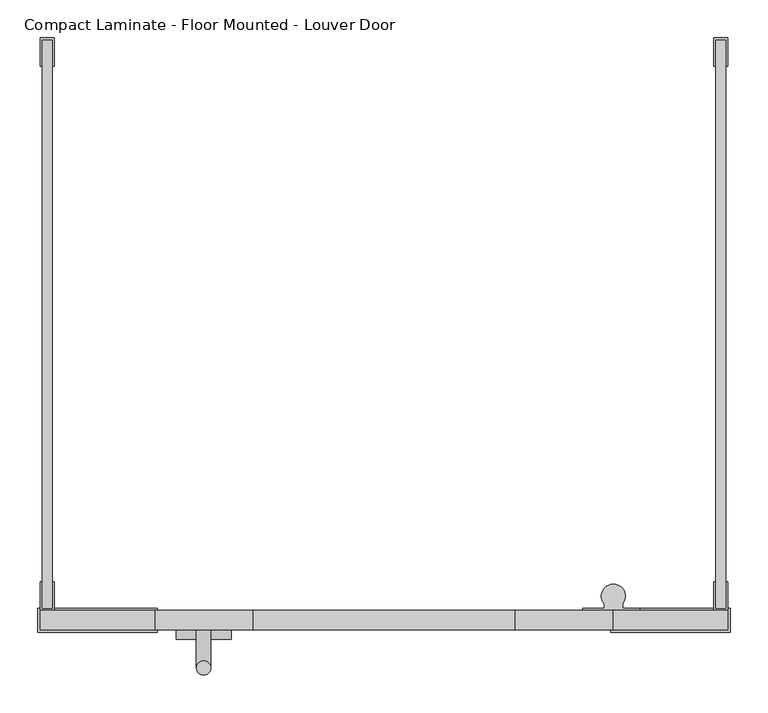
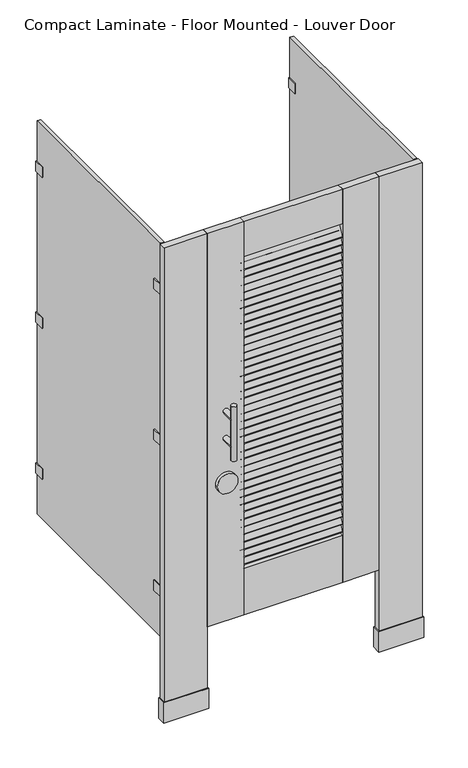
"""IFC4 building model written with IfcOpenShell, lengths in millimetres: proxy geometry, Toilet-Partition_Ironwood-Mfg_Compact-Laminate : Compact Laminate - Floor Mounted - Louver Door."""

from ifc_helpers import new_model, si_unit, point, frame, frame_2d, origin, origin_with_axes, place, context, project, spatial, polyline, circle_curve, ellipse_curve, trimmed, segment, composite_curve, outline, extrude, source, transform, mapped, element, save
from ifc_brep_helpers import plane_surface, cylinder_surface, advanced_brep


def compact_laminate_floor_mounted_louver_door_74d75947(model_context):
    return source(origin(), model_context, "Body", "SolidModel", [
        extrude(outline(polyline([(701.675, -758.825), (701.675, -790.575), (542.925, -790.575), (542.925, -758.825), (701.675, -758.825)])), origin_with_axes(), (0.0, 0.0, 1.0), 76.2),
        extrude(outline(polyline([(698.5, -762.0), (698.5, -787.4), (546.1, -787.4), (546.1, -762.0), (698.5, -762.0)])), origin_with_axes(), (0.0, 0.0, 1.0), 1778.0),
        extrude(outline(polyline([(-219.075, -758.825), (-60.325, -758.825), (-60.325, -790.575), (-219.075, -790.575), (-219.075, -758.825)])), origin_with_axes(), (0.0, 0.0, 1.0), 76.2),
        extrude(outline(polyline([(-215.9, -762.0), (-63.5, -762.0), (-63.5, -787.4), (-215.9, -787.4), (-215.9, -762.0)])), origin_with_axes(), (0.0, 0.0, 1.0), 1778.0),
        extrude(outline(composite_curve([segment(polyline([(-762.7746396, 1604.8741298), (-780.7614889, 1567.9956236)]), True, "CONTINUOUS"), segment(trimmed(circle_curve(frame_2d((-783.61516, 1569.387452)), 3.175), [point((-780.7614889, 1567.9956236))], [point((-786.4688311, 1570.7792804))], False, "CARTESIAN"), True, "CONTINUOUS"), segment(polyline([(-786.4688311, 1570.7792804), (-768.4819818, 1607.6577866)]), True, "CONTINUOUS"), segment(trimmed(circle_curve(frame_2d((-765.6283107, 1606.2659582)), 3.175), [point((-768.4819818, 1607.6577866))], [point((-762.7746396, 1604.8741298))], False, "CARTESIAN"), True, "CONTINUOUS")], self_intersect=False)), frame((66.675, 0.0, 0.0), z_axis=(1.0, 0.0, 0.0), x_axis=(0.0, 1.0, 0.0)), (0.0, 0.0, 1.0), 349.25),
        extrude(outline(composite_curve([segment(polyline([(-762.7746396, 1576.5578755), (-780.7614889, 1539.6793692)]), True, "CONTINUOUS"), segment(trimmed(circle_curve(frame_2d((-783.61516, 1541.0711976)), 3.175), [point((-780.7614889, 1539.6793692))], [point((-786.4688311, 1542.463026))], False, "CARTESIAN"), True, "CONTINUOUS"), segment(polyline([(-786.4688311, 1542.463026), (-768.4819818, 1579.3415322)]), True, "CONTINUOUS"), segment(trimmed(circle_curve(frame_2d((-765.6283107, 1577.9497038)), 3.175), [point((-768.4819818, 1579.3415322))], [point((-762.7746396, 1576.5578755))], False, "CARTESIAN"), True, "CONTINUOUS")], self_intersect=False)), frame((66.675, 0.0, 0.0), z_axis=(1.0, 0.0, 0.0), x_axis=(0.0, 1.0, 0.0)), (0.0, 0.0, 1.0), 349.25),
        extrude(outline(composite_curve([segment(polyline([(-762.7746396, 1548.2416211), (-780.7614889, 1511.3631149)]), True, "CONTINUOUS"), segment(trimmed(circle_curve(frame_2d((-783.61516, 1512.7549433)), 3.175), [point((-780.7614889, 1511.3631149))], [point((-786.4688311, 1514.1467716))], False, "CARTESIAN"), True, "CONTINUOUS"), segment(polyline([(-786.4688311, 1514.1467716), (-768.4819818, 1551.0252779)]), True, "CONTINUOUS"), segment(trimmed(circle_curve(frame_2d((-765.6283107, 1549.6334495)), 3.175), [point((-768.4819818, 1551.0252779))], [point((-762.7746396, 1548.2416211))], False, "CARTESIAN"), True, "CONTINUOUS")], self_intersect=False)), frame((66.675, 0.0, 0.0), z_axis=(1.0, 0.0, 0.0), x_axis=(0.0, 1.0, 0.0)), (0.0, 0.0, 1.0), 349.25),
        extrude(outline(composite_curve([segment(polyline([(-762.7746396, 1519.9253667), (-780.7614889, 1483.0468605)]), True, "CONTINUOUS"), segment(trimmed(circle_curve(frame_2d((-783.61516, 1484.4386889)), 3.175), [point((-780.7614889, 1483.0468605))], [point((-786.4688311, 1485.8305173))], False, "CARTESIAN"), True, "CONTINUOUS"), segment(polyline([(-786.4688311, 1485.8305173), (-768.4819818, 1522.7090235)]), True, "CONTINUOUS"), segment(trimmed(circle_curve(frame_2d((-765.6283107, 1521.3171951)), 3.175), [point((-768.4819818, 1522.7090235))], [point((-762.7746396, 1519.9253667))], False, "CARTESIAN"), True, "CONTINUOUS")], self_intersect=False)), frame((66.675, 0.0, 0.0), z_axis=(1.0, 0.0, 0.0), x_axis=(0.0, 1.0, 0.0)), (0.0, 0.0, 1.0), 349.25),
        extrude(outline(composite_curve([segment(polyline([(-762.7746396, 1491.6091124), (-780.7614889, 1454.7306061)]), True, "CONTINUOUS"), segment(trimmed(circle_curve(frame_2d((-783.61516, 1456.1224345)), 3.175), [point((-780.7614889, 1454.7306061))], [point((-786.4688311, 1457.5142629))], False, "CARTESIAN"), True, "CONTINUOUS"), segment(polyline([(-786.4688311, 1457.5142629), (-768.4819818, 1494.3927691)]), True, "CONTINUOUS"), segment(trimmed(circle_curve(frame_2d((-765.6283107, 1493.0009408)), 3.175), [point((-768.4819818, 1494.3927691))], [point((-762.7746396, 1491.6091124))], False, "CARTESIAN"), True, "CONTINUOUS")], self_intersect=False)), frame((66.675, 0.0, 0.0), z_axis=(1.0, 0.0, 0.0), x_axis=(0.0, 1.0, 0.0)), (0.0, 0.0, 1.0), 349.25),
        extrude(outline(composite_curve([segment(polyline([(-762.7746396, 1463.292858), (-780.7614889, 1426.4143518)]), True, "CONTINUOUS"), segment(trimmed(circle_curve(frame_2d((-783.61516, 1427.8061802)), 3.175), [point((-780.7614889, 1426.4143518))], [point((-786.4688311, 1429.1980085))], False, "CARTESIAN"), True, "CONTINUOUS"), segment(polyline([(-786.4688311, 1429.1980085), (-768.4819818, 1466.0765148)]), True, "CONTINUOUS"), segment(trimmed(circle_curve(frame_2d((-765.6283107, 1464.6846864)), 3.175), [point((-768.4819818, 1466.0765148))], [point((-762.7746396, 1463.292858))], False, "CARTESIAN"), True, "CONTINUOUS")], self_intersect=False)), frame((66.675, 0.0, 0.0), z_axis=(1.0, 0.0, 0.0), x_axis=(0.0, 1.0, 0.0)), (0.0, 0.0, 1.0), 349.25),
        extrude(outline(composite_curve([segment(polyline([(-762.7746396, 1434.9766036), (-780.7614889, 1398.0980974)]), True, "CONTINUOUS"), segment(trimmed(circle_curve(frame_2d((-783.61516, 1399.4899258)), 3.175), [point((-780.7614889, 1398.0980974))], [point((-786.4688311, 1400.8817542))], False, "CARTESIAN"), True, "CONTINUOUS"), segment(polyline([(-786.4688311, 1400.8817542), (-768.4819818, 1437.7602604)]), True, "CONTINUOUS"), segment(trimmed(circle_curve(frame_2d((-765.6283107, 1436.368432)), 3.175), [point((-768.4819818, 1437.7602604))], [point((-762.7746396, 1434.9766036))], False, "CARTESIAN"), True, "CONTINUOUS")], self_intersect=False)), frame((66.675, 0.0, 0.0), z_axis=(1.0, 0.0, 0.0), x_axis=(0.0, 1.0, 0.0)), (0.0, 0.0, 1.0), 349.25),
        extrude(outline(composite_curve([segment(polyline([(-762.7746396, 1406.6603493), (-780.7614889, 1369.781843)]), True, "CONTINUOUS"), segment(trimmed(circle_curve(frame_2d((-783.61516, 1371.1736714)), 3.175), [point((-780.7614889, 1369.781843))], [point((-786.4688311, 1372.5654998))], False, "CARTESIAN"), True, "CONTINUOUS"), segment(polyline([(-786.4688311, 1372.5654998), (-768.4819818, 1409.444006)]), True, "CONTINUOUS"), segment(trimmed(circle_curve(frame_2d((-765.6283107, 1408.0521777)), 3.175), [point((-768.4819818, 1409.444006))], [point((-762.7746396, 1406.6603493))], False, "CARTESIAN"), True, "CONTINUOUS")], self_intersect=False)), frame((66.675, 0.0, 0.0), z_axis=(1.0, 0.0, 0.0), x_axis=(0.0, 1.0, 0.0)), (0.0, 0.0, 1.0), 349.25),
        extrude(outline(composite_curve([segment(polyline([(-762.7746396, 1378.3440949), (-780.7614889, 1341.4655887)]), True, "CONTINUOUS"), segment(trimmed(circle_curve(frame_2d((-783.61516, 1342.8574171)), 3.175), [point((-780.7614889, 1341.4655887))], [point((-786.4688311, 1344.2492455))], False, "CARTESIAN"), True, "CONTINUOUS"), segment(polyline([(-786.4688311, 1344.2492455), (-768.4819818, 1381.1277517)]), True, "CONTINUOUS"), segment(trimmed(circle_curve(frame_2d((-765.6283107, 1379.7359233)), 3.175), [point((-768.4819818, 1381.1277517))], [point((-762.7746396, 1378.3440949))], False, "CARTESIAN"), True, "CONTINUOUS")], self_intersect=False)), frame((66.675, 0.0, 0.0), z_axis=(1.0, 0.0, 0.0), x_axis=(0.0, 1.0, 0.0)), (0.0, 0.0, 1.0), 349.25),
        extrude(outline(composite_curve([segment(polyline([(-762.7746396, 1350.0278405), (-780.7614889, 1313.1493343)]), True, "CONTINUOUS"), segment(trimmed(circle_curve(frame_2d((-783.61516, 1314.5411627)), 3.175), [point((-780.7614889, 1313.1493343))], [point((-786.4688311, 1315.9329911))], False, "CARTESIAN"), True, "CONTINUOUS"), segment(polyline([(-786.4688311, 1315.9329911), (-768.4819818, 1352.8114973)]), True, "CONTINUOUS"), segment(trimmed(circle_curve(frame_2d((-765.6283107, 1351.4196689)), 3.175), [point((-768.4819818, 1352.8114973))], [point((-762.7746396, 1350.0278405))], False, "CARTESIAN"), True, "CONTINUOUS")], self_intersect=False)), frame((66.675, 0.0, 0.0), z_axis=(1.0, 0.0, 0.0), x_axis=(0.0, 1.0, 0.0)), (0.0, 0.0, 1.0), 349.25),
        extrude(outline(composite_curve([segment(polyline([(-762.7746396, 1321.7115862), (-780.7614889, 1284.8330799)]), True, "CONTINUOUS"), segment(trimmed(circle_curve(frame_2d((-783.61516, 1286.2249083)), 3.175), [point((-780.7614889, 1284.8330799))], [point((-786.4688311, 1287.6167367))], False, "CARTESIAN"), True, "CONTINUOUS"), segment(polyline([(-786.4688311, 1287.6167367), (-768.4819818, 1324.4952429)]), True, "CONTINUOUS"), segment(trimmed(circle_curve(frame_2d((-765.6283107, 1323.1034146)), 3.175), [point((-768.4819818, 1324.4952429))], [point((-762.7746396, 1321.7115862))], False, "CARTESIAN"), True, "CONTINUOUS")], self_intersect=False)), frame((66.675, 0.0, 0.0), z_axis=(1.0, 0.0, 0.0), x_axis=(0.0, 1.0, 0.0)), (0.0, 0.0, 1.0), 349.25),
        extrude(outline(composite_curve([segment(polyline([(-762.7746396, 1293.3953318), (-780.7614889, 1256.5168256)]), True, "CONTINUOUS"), segment(trimmed(circle_curve(frame_2d((-783.61516, 1257.908654)), 3.175), [point((-780.7614889, 1256.5168256))], [point((-786.4688311, 1259.3004824))], False, "CARTESIAN"), True, "CONTINUOUS"), segment(polyline([(-786.4688311, 1259.3004824), (-768.4819818, 1296.1789886)]), True, "CONTINUOUS"), segment(trimmed(circle_curve(frame_2d((-765.6283107, 1294.7871602)), 3.175), [point((-768.4819818, 1296.1789886))], [point((-762.7746396, 1293.3953318))], False, "CARTESIAN"), True, "CONTINUOUS")], self_intersect=False)), frame((66.675, 0.0, 0.0), z_axis=(1.0, 0.0, 0.0), x_axis=(0.0, 1.0, 0.0)), (0.0, 0.0, 1.0), 349.25),
        extrude(outline(composite_curve([segment(polyline([(-762.7746396, 1265.0790774), (-780.7614889, 1228.2005712)]), True, "CONTINUOUS"), segment(trimmed(circle_curve(frame_2d((-783.61516, 1229.5923996)), 3.175), [point((-780.7614889, 1228.2005712))], [point((-786.4688311, 1230.984228))], False, "CARTESIAN"), True, "CONTINUOUS"), segment(polyline([(-786.4688311, 1230.984228), (-768.4819818, 1267.8627342)]), True, "CONTINUOUS"), segment(trimmed(circle_curve(frame_2d((-765.6283107, 1266.4709058)), 3.175), [point((-768.4819818, 1267.8627342))], [point((-762.7746396, 1265.0790774))], False, "CARTESIAN"), True, "CONTINUOUS")], self_intersect=False)), frame((66.675, 0.0, 0.0), z_axis=(1.0, 0.0, 0.0), x_axis=(0.0, 1.0, 0.0)), (0.0, 0.0, 1.0), 349.25),
        extrude(outline(composite_curve([segment(polyline([(-762.7746396, 1236.7628231), (-780.7614889, 1199.8843168)]), True, "CONTINUOUS"), segment(trimmed(circle_curve(frame_2d((-783.61516, 1201.2761452)), 3.175), [point((-780.7614889, 1199.8843168))], [point((-786.4688311, 1202.6679736))], False, "CARTESIAN"), True, "CONTINUOUS"), segment(polyline([(-786.4688311, 1202.6679736), (-768.4819818, 1239.5464799)]), True, "CONTINUOUS"), segment(trimmed(circle_curve(frame_2d((-765.6283107, 1238.1546515)), 3.175), [point((-768.4819818, 1239.5464799))], [point((-762.7746396, 1236.7628231))], False, "CARTESIAN"), True, "CONTINUOUS")], self_intersect=False)), frame((66.675, 0.0, 0.0), z_axis=(1.0, 0.0, 0.0), x_axis=(0.0, 1.0, 0.0)), (0.0, 0.0, 1.0), 349.25),
        extrude(outline(composite_curve([segment(polyline([(-762.7746396, 1208.4465687), (-780.7614889, 1171.5680625)]), True, "CONTINUOUS"), segment(trimmed(circle_curve(frame_2d((-783.61516, 1172.9598909)), 3.175), [point((-780.7614889, 1171.5680625))], [point((-786.4688311, 1174.3517193))], False, "CARTESIAN"), True, "CONTINUOUS"), segment(polyline([(-786.4688311, 1174.3517193), (-768.4819818, 1211.2302255)]), True, "CONTINUOUS"), segment(trimmed(circle_curve(frame_2d((-765.6283107, 1209.8383971)), 3.175), [point((-768.4819818, 1211.2302255))], [point((-762.7746396, 1208.4465687))], False, "CARTESIAN"), True, "CONTINUOUS")], self_intersect=False)), frame((66.675, 0.0, 0.0), z_axis=(1.0, 0.0, 0.0), x_axis=(0.0, 1.0, 0.0)), (0.0, 0.0, 1.0), 349.25),
        extrude(outline(composite_curve([segment(polyline([(-762.7746396, 1180.1303143), (-780.7614889, 1143.2518081)]), True, "CONTINUOUS"), segment(trimmed(circle_curve(frame_2d((-783.61516, 1144.6436365)), 3.175), [point((-780.7614889, 1143.2518081))], [point((-786.4688311, 1146.0354649))], False, "CARTESIAN"), True, "CONTINUOUS"), segment(polyline([(-786.4688311, 1146.0354649), (-768.4819818, 1182.9139711)]), True, "CONTINUOUS"), segment(trimmed(circle_curve(frame_2d((-765.6283107, 1181.5221427)), 3.175), [point((-768.4819818, 1182.9139711))], [point((-762.7746396, 1180.1303143))], False, "CARTESIAN"), True, "CONTINUOUS")], self_intersect=False)), frame((66.675, 0.0, 0.0), z_axis=(1.0, 0.0, 0.0), x_axis=(0.0, 1.0, 0.0)), (0.0, 0.0, 1.0), 349.25),
        extrude(outline(composite_curve([segment(polyline([(-762.7746396, 1151.81406), (-780.7614889, 1114.9355537)]), True, "CONTINUOUS"), segment(trimmed(circle_curve(frame_2d((-783.61516, 1116.3273821)), 3.175), [point((-780.7614889, 1114.9355537))], [point((-786.4688311, 1117.7192105))], False, "CARTESIAN"), True, "CONTINUOUS"), segment(polyline([(-786.4688311, 1117.7192105), (-768.4819818, 1154.5977168)]), True, "CONTINUOUS"), segment(trimmed(circle_curve(frame_2d((-765.6283107, 1153.2058884)), 3.175), [point((-768.4819818, 1154.5977168))], [point((-762.7746396, 1151.81406))], False, "CARTESIAN"), True, "CONTINUOUS")], self_intersect=False)), frame((66.675, 0.0, 0.0), z_axis=(1.0, 0.0, 0.0), x_axis=(0.0, 1.0, 0.0)), (0.0, 0.0, 1.0), 349.25),
        extrude(outline(composite_curve([segment(polyline([(-762.7746396, 1123.4978056), (-780.7614889, 1086.6192994)]), True, "CONTINUOUS"), segment(trimmed(circle_curve(frame_2d((-783.61516, 1088.0111278)), 3.175), [point((-780.7614889, 1086.6192994))], [point((-786.4688311, 1089.4029562))], False, "CARTESIAN"), True, "CONTINUOUS"), segment(polyline([(-786.4688311, 1089.4029562), (-768.4819818, 1126.2814624)]), True, "CONTINUOUS"), segment(trimmed(circle_curve(frame_2d((-765.6283107, 1124.889634)), 3.175), [point((-768.4819818, 1126.2814624))], [point((-762.7746396, 1123.4978056))], False, "CARTESIAN"), True, "CONTINUOUS")], self_intersect=False)), frame((66.675, 0.0, 0.0), z_axis=(1.0, 0.0, 0.0), x_axis=(0.0, 1.0, 0.0)), (0.0, 0.0, 1.0), 349.25),
        extrude(outline(composite_curve([segment(polyline([(-762.7746396, 1095.1815512), (-780.7614889, 1058.303045)]), True, "CONTINUOUS"), segment(trimmed(circle_curve(frame_2d((-783.61516, 1059.6948734)), 3.175), [point((-780.7614889, 1058.303045))], [point((-786.4688311, 1061.0867018))], False, "CARTESIAN"), True, "CONTINUOUS"), segment(polyline([(-786.4688311, 1061.0867018), (-768.4819818, 1097.965208)]), True, "CONTINUOUS"), segment(trimmed(circle_curve(frame_2d((-765.6283107, 1096.5733796)), 3.175), [point((-768.4819818, 1097.965208))], [point((-762.7746396, 1095.1815512))], False, "CARTESIAN"), True, "CONTINUOUS")], self_intersect=False)), frame((66.675, 0.0, 0.0), z_axis=(1.0, 0.0, 0.0), x_axis=(0.0, 1.0, 0.0)), (0.0, 0.0, 1.0), 349.25),
        extrude(outline(composite_curve([segment(polyline([(-762.7746396, 1066.8652969), (-780.7614889, 1029.9867907)]), True, "CONTINUOUS"), segment(trimmed(circle_curve(frame_2d((-783.61516, 1031.378619)), 3.175), [point((-780.7614889, 1029.9867907))], [point((-786.4688311, 1032.7704474))], False, "CARTESIAN"), True, "CONTINUOUS"), segment(polyline([(-786.4688311, 1032.7704474), (-768.4819818, 1069.6489537)]), True, "CONTINUOUS"), segment(trimmed(circle_curve(frame_2d((-765.6283107, 1068.2571253)), 3.175), [point((-768.4819818, 1069.6489537))], [point((-762.7746396, 1066.8652969))], False, "CARTESIAN"), True, "CONTINUOUS")], self_intersect=False)), frame((66.675, 0.0, 0.0), z_axis=(1.0, 0.0, 0.0), x_axis=(0.0, 1.0, 0.0)), (0.0, 0.0, 1.0), 349.25),
        extrude(outline(composite_curve([segment(polyline([(-762.7746396, 1038.5490425), (-780.7614889, 1001.6705363)]), True, "CONTINUOUS"), segment(trimmed(circle_curve(frame_2d((-783.61516, 1003.0623647)), 3.175), [point((-780.7614889, 1001.6705363))], [point((-786.4688311, 1004.4541931))], False, "CARTESIAN"), True, "CONTINUOUS"), segment(polyline([(-786.4688311, 1004.4541931), (-768.4819818, 1041.3326993)]), True, "CONTINUOUS"), segment(trimmed(circle_curve(frame_2d((-765.6283107, 1039.9408709)), 3.175), [point((-768.4819818, 1041.3326993))], [point((-762.7746396, 1038.5490425))], False, "CARTESIAN"), True, "CONTINUOUS")], self_intersect=False)), frame((66.675, 0.0, 0.0), z_axis=(1.0, 0.0, 0.0), x_axis=(0.0, 1.0, 0.0)), (0.0, 0.0, 1.0), 349.25),
        extrude(outline(composite_curve([segment(polyline([(-762.7746396, 1010.2327881), (-780.7614889, 973.3542819)]), True, "CONTINUOUS"), segment(trimmed(circle_curve(frame_2d((-783.61516, 974.7461103)), 3.175), [point((-780.7614889, 973.3542819))], [point((-786.4688311, 976.1379387))], False, "CARTESIAN"), True, "CONTINUOUS"), segment(polyline([(-786.4688311, 976.1379387), (-768.4819818, 1013.0164449)]), True, "CONTINUOUS"), segment(trimmed(circle_curve(frame_2d((-765.6283107, 1011.6246165)), 3.175), [point((-768.4819818, 1013.0164449))], [point((-762.7746396, 1010.2327881))], False, "CARTESIAN"), True, "CONTINUOUS")], self_intersect=False)), frame((66.675, 0.0, 0.0), z_axis=(1.0, 0.0, 0.0), x_axis=(0.0, 1.0, 0.0)), (0.0, 0.0, 1.0), 349.25),
        extrude(outline(composite_curve([segment(polyline([(-762.7746396, 981.9165338), (-780.7614889, 945.0380276)]), True, "CONTINUOUS"), segment(trimmed(circle_curve(frame_2d((-783.61516, 946.4298559)), 3.175), [point((-780.7614889, 945.0380276))], [point((-786.4688311, 947.8216843))], False, "CARTESIAN"), True, "CONTINUOUS"), segment(polyline([(-786.4688311, 947.8216843), (-768.4819818, 984.7001906)]), True, "CONTINUOUS"), segment(trimmed(circle_curve(frame_2d((-765.6283107, 983.3083622)), 3.175), [point((-768.4819818, 984.7001906))], [point((-762.7746396, 981.9165338))], False, "CARTESIAN"), True, "CONTINUOUS")], self_intersect=False)), frame((66.675, 0.0, 0.0), z_axis=(1.0, 0.0, 0.0), x_axis=(0.0, 1.0, 0.0)), (0.0, 0.0, 1.0), 349.25),
        extrude(outline(composite_curve([segment(polyline([(-762.7746396, 953.6002794), (-780.7614889, 916.7217732)]), True, "CONTINUOUS"), segment(trimmed(circle_curve(frame_2d((-783.61516, 918.1136016)), 3.175), [point((-780.7614889, 916.7217732))], [point((-786.4688311, 919.50543))], False, "CARTESIAN"), True, "CONTINUOUS"), segment(polyline([(-786.4688311, 919.50543), (-768.4819818, 956.3839362)]), True, "CONTINUOUS"), segment(trimmed(circle_curve(frame_2d((-765.6283107, 954.9921078)), 3.175), [point((-768.4819818, 956.3839362))], [point((-762.7746396, 953.6002794))], False, "CARTESIAN"), True, "CONTINUOUS")], self_intersect=False)), frame((66.675, 0.0, 0.0), z_axis=(1.0, 0.0, 0.0), x_axis=(0.0, 1.0, 0.0)), (0.0, 0.0, 1.0), 349.25),
        extrude(outline(composite_curve([segment(polyline([(-762.7746396, 925.284025), (-780.7614889, 888.4055188)]), True, "CONTINUOUS"), segment(trimmed(circle_curve(frame_2d((-783.61516, 889.7973472)), 3.175), [point((-780.7614889, 888.4055188))], [point((-786.4688311, 891.1891756))], False, "CARTESIAN"), True, "CONTINUOUS"), segment(polyline([(-786.4688311, 891.1891756), (-768.4819818, 928.0676818)]), True, "CONTINUOUS"), segment(trimmed(circle_curve(frame_2d((-765.6283107, 926.6758534)), 3.175), [point((-768.4819818, 928.0676818))], [point((-762.7746396, 925.284025))], False, "CARTESIAN"), True, "CONTINUOUS")], self_intersect=False)), frame((66.675, 0.0, 0.0), z_axis=(1.0, 0.0, 0.0), x_axis=(0.0, 1.0, 0.0)), (0.0, 0.0, 1.0), 349.25),
        extrude(outline(composite_curve([segment(polyline([(-762.7746396, 896.9677707), (-780.7614889, 860.0892645)]), True, "CONTINUOUS"), segment(trimmed(circle_curve(frame_2d((-783.61516, 861.4810928)), 3.175), [point((-780.7614889, 860.0892645))], [point((-786.4688311, 862.8729212))], False, "CARTESIAN"), True, "CONTINUOUS"), segment(polyline([(-786.4688311, 862.8729212), (-768.4819818, 899.7514275)]), True, "CONTINUOUS"), segment(trimmed(circle_curve(frame_2d((-765.6283107, 898.3595991)), 3.175), [point((-768.4819818, 899.7514275))], [point((-762.7746396, 896.9677707))], False, "CARTESIAN"), True, "CONTINUOUS")], self_intersect=False)), frame((66.675, 0.0, 0.0), z_axis=(1.0, 0.0, 0.0), x_axis=(0.0, 1.0, 0.0)), (0.0, 0.0, 1.0), 349.25),
        extrude(outline(composite_curve([segment(polyline([(-762.7746396, 868.6515163), (-780.7614889, 831.7730101)]), True, "CONTINUOUS"), segment(trimmed(circle_curve(frame_2d((-783.61516, 833.1648385)), 3.175), [point((-780.7614889, 831.7730101))], [point((-786.4688311, 834.5566669))], False, "CARTESIAN"), True, "CONTINUOUS"), segment(polyline([(-786.4688311, 834.5566669), (-768.4819818, 871.4351731)]), True, "CONTINUOUS"), segment(trimmed(circle_curve(frame_2d((-765.6283107, 870.0433447)), 3.175), [point((-768.4819818, 871.4351731))], [point((-762.7746396, 868.6515163))], False, "CARTESIAN"), True, "CONTINUOUS")], self_intersect=False)), frame((66.675, 0.0, 0.0), z_axis=(1.0, 0.0, 0.0), x_axis=(0.0, 1.0, 0.0)), (0.0, 0.0, 1.0), 349.25),
        extrude(outline(composite_curve([segment(polyline([(-762.7746396, 840.335262), (-780.7614889, 803.4567557)]), True, "CONTINUOUS"), segment(trimmed(circle_curve(frame_2d((-783.61516, 804.8485841)), 3.175), [point((-780.7614889, 803.4567557))], [point((-786.4688311, 806.2404125))], False, "CARTESIAN"), True, "CONTINUOUS"), segment(polyline([(-786.4688311, 806.2404125), (-768.4819818, 843.1189187)]), True, "CONTINUOUS"), segment(trimmed(circle_curve(frame_2d((-765.6283107, 841.7270903)), 3.175), [point((-768.4819818, 843.1189187))], [point((-762.7746396, 840.335262))], False, "CARTESIAN"), True, "CONTINUOUS")], self_intersect=False)), frame((66.675, 0.0, 0.0), z_axis=(1.0, 0.0, 0.0), x_axis=(0.0, 1.0, 0.0)), (0.0, 0.0, 1.0), 349.25),
        extrude(outline(composite_curve([segment(polyline([(-762.7746396, 812.0190076), (-780.7614889, 775.1405014)]), True, "CONTINUOUS"), segment(trimmed(circle_curve(frame_2d((-783.61516, 776.5323298)), 3.175), [point((-780.7614889, 775.1405014))], [point((-786.4688311, 777.9241581))], False, "CARTESIAN"), True, "CONTINUOUS"), segment(polyline([(-786.4688311, 777.9241581), (-768.4819818, 814.8026644)]), True, "CONTINUOUS"), segment(trimmed(circle_curve(frame_2d((-765.6283107, 813.410836)), 3.175), [point((-768.4819818, 814.8026644))], [point((-762.7746396, 812.0190076))], False, "CARTESIAN"), True, "CONTINUOUS")], self_intersect=False)), frame((66.675, 0.0, 0.0), z_axis=(1.0, 0.0, 0.0), x_axis=(0.0, 1.0, 0.0)), (0.0, 0.0, 1.0), 349.25),
        extrude(outline(composite_curve([segment(polyline([(-762.7746396, 783.7027532), (-780.7614889, 746.824247)]), True, "CONTINUOUS"), segment(trimmed(circle_curve(frame_2d((-783.61516, 748.2160754)), 3.175), [point((-780.7614889, 746.824247))], [point((-786.4688311, 749.6079038))], False, "CARTESIAN"), True, "CONTINUOUS"), segment(polyline([(-786.4688311, 749.6079038), (-768.4819818, 786.48641)]), True, "CONTINUOUS"), segment(trimmed(circle_curve(frame_2d((-765.6283107, 785.0945816)), 3.175), [point((-768.4819818, 786.48641))], [point((-762.7746396, 783.7027532))], False, "CARTESIAN"), True, "CONTINUOUS")], self_intersect=False)), frame((66.675, 0.0, 0.0), z_axis=(1.0, 0.0, 0.0), x_axis=(0.0, 1.0, 0.0)), (0.0, 0.0, 1.0), 349.25),
        extrude(outline(composite_curve([segment(polyline([(-762.7746396, 755.3864989), (-780.7614889, 718.5079926)]), True, "CONTINUOUS"), segment(trimmed(circle_curve(frame_2d((-783.61516, 719.899821)), 3.175), [point((-780.7614889, 718.5079926))], [point((-786.4688311, 721.2916494))], False, "CARTESIAN"), True, "CONTINUOUS"), segment(polyline([(-786.4688311, 721.2916494), (-768.4819818, 758.1701556)]), True, "CONTINUOUS"), segment(trimmed(circle_curve(frame_2d((-765.6283107, 756.7783272)), 3.175), [point((-768.4819818, 758.1701556))], [point((-762.7746396, 755.3864989))], False, "CARTESIAN"), True, "CONTINUOUS")], self_intersect=False)), frame((66.675, 0.0, 0.0), z_axis=(1.0, 0.0, 0.0), x_axis=(0.0, 1.0, 0.0)), (0.0, 0.0, 1.0), 349.25),
        extrude(outline(composite_curve([segment(polyline([(-762.7746396, 727.0702445), (-780.7614889, 690.1917383)]), True, "CONTINUOUS"), segment(trimmed(circle_curve(frame_2d((-783.61516, 691.5835667)), 3.175), [point((-780.7614889, 690.1917383))], [point((-786.4688311, 692.975395))], False, "CARTESIAN"), True, "CONTINUOUS"), segment(polyline([(-786.4688311, 692.975395), (-768.4819818, 729.8539013)]), True, "CONTINUOUS"), segment(trimmed(circle_curve(frame_2d((-765.6283107, 728.4620729)), 3.175), [point((-768.4819818, 729.8539013))], [point((-762.7746396, 727.0702445))], False, "CARTESIAN"), True, "CONTINUOUS")], self_intersect=False)), frame((66.675, 0.0, 0.0), z_axis=(1.0, 0.0, 0.0), x_axis=(0.0, 1.0, 0.0)), (0.0, 0.0, 1.0), 349.25),
        extrude(outline(composite_curve([segment(polyline([(-762.7746396, 698.7539901), (-780.7614889, 661.8754839)]), True, "CONTINUOUS"), segment(trimmed(circle_curve(frame_2d((-783.61516, 663.2673123)), 3.175), [point((-780.7614889, 661.8754839))], [point((-786.4688311, 664.6591407))], False, "CARTESIAN"), True, "CONTINUOUS"), segment(polyline([(-786.4688311, 664.6591407), (-768.4819818, 701.5376469)]), True, "CONTINUOUS"), segment(trimmed(circle_curve(frame_2d((-765.6283107, 700.1458185)), 3.175), [point((-768.4819818, 701.5376469))], [point((-762.7746396, 698.7539901))], False, "CARTESIAN"), True, "CONTINUOUS")], self_intersect=False)), frame((66.675, 0.0, 0.0), z_axis=(1.0, 0.0, 0.0), x_axis=(0.0, 1.0, 0.0)), (0.0, 0.0, 1.0), 349.25),
        extrude(outline(composite_curve([segment(polyline([(-762.7746396, 670.4377358), (-780.7614889, 633.5592295)]), True, "CONTINUOUS"), segment(trimmed(circle_curve(frame_2d((-783.61516, 634.9510579)), 3.175), [point((-780.7614889, 633.5592295))], [point((-786.4688311, 636.3428863))], False, "CARTESIAN"), True, "CONTINUOUS"), segment(polyline([(-786.4688311, 636.3428863), (-768.4819818, 673.2213925)]), True, "CONTINUOUS"), segment(trimmed(circle_curve(frame_2d((-765.6283107, 671.8295642)), 3.175), [point((-768.4819818, 673.2213925))], [point((-762.7746396, 670.4377358))], False, "CARTESIAN"), True, "CONTINUOUS")], self_intersect=False)), frame((66.675, 0.0, 0.0), z_axis=(1.0, 0.0, 0.0), x_axis=(0.0, 1.0, 0.0)), (0.0, 0.0, 1.0), 349.25),
        extrude(outline(composite_curve([segment(polyline([(-762.7746396, 642.1214814), (-780.7614889, 605.2429752)]), True, "CONTINUOUS"), segment(trimmed(circle_curve(frame_2d((-783.61516, 606.6348036)), 3.175), [point((-780.7614889, 605.2429752))], [point((-786.4688311, 608.026632))], False, "CARTESIAN"), True, "CONTINUOUS"), segment(polyline([(-786.4688311, 608.026632), (-768.4819818, 644.9051382)]), True, "CONTINUOUS"), segment(trimmed(circle_curve(frame_2d((-765.6283107, 643.5133098)), 3.175), [point((-768.4819818, 644.9051382))], [point((-762.7746396, 642.1214814))], False, "CARTESIAN"), True, "CONTINUOUS")], self_intersect=False)), frame((66.675, 0.0, 0.0), z_axis=(1.0, 0.0, 0.0), x_axis=(0.0, 1.0, 0.0)), (0.0, 0.0, 1.0), 349.25),
        extrude(outline(composite_curve([segment(polyline([(-762.7746396, 613.805227), (-780.7614889, 576.9267208)]), True, "CONTINUOUS"), segment(trimmed(circle_curve(frame_2d((-783.61516, 578.3185492)), 3.175), [point((-780.7614889, 576.9267208))], [point((-786.4688311, 579.7103776))], False, "CARTESIAN"), True, "CONTINUOUS"), segment(polyline([(-786.4688311, 579.7103776), (-768.4819818, 616.5888838)]), True, "CONTINUOUS"), segment(trimmed(circle_curve(frame_2d((-765.6283107, 615.1970554)), 3.175), [point((-768.4819818, 616.5888838))], [point((-762.7746396, 613.805227))], False, "CARTESIAN"), True, "CONTINUOUS")], self_intersect=False)), frame((66.675, 0.0, 0.0), z_axis=(1.0, 0.0, 0.0), x_axis=(0.0, 1.0, 0.0)), (0.0, 0.0, 1.0), 349.25),
        extrude(outline(composite_curve([segment(polyline([(-762.7746396, 585.4889727), (-780.7614889, 548.6104664)]), True, "CONTINUOUS"), segment(trimmed(circle_curve(frame_2d((-783.61516, 550.0022948)), 3.175), [point((-780.7614889, 548.6104664))], [point((-786.4688311, 551.3941232))], False, "CARTESIAN"), True, "CONTINUOUS"), segment(polyline([(-786.4688311, 551.3941232), (-768.4819818, 588.2726294)]), True, "CONTINUOUS"), segment(trimmed(circle_curve(frame_2d((-765.6283107, 586.8808011)), 3.175), [point((-768.4819818, 588.2726294))], [point((-762.7746396, 585.4889727))], False, "CARTESIAN"), True, "CONTINUOUS")], self_intersect=False)), frame((66.675, 0.0, 0.0), z_axis=(1.0, 0.0, 0.0), x_axis=(0.0, 1.0, 0.0)), (0.0, 0.0, 1.0), 349.25),
        extrude(outline(composite_curve([segment(polyline([(-762.7746396, 557.1727183), (-780.7614889, 520.2942121)]), True, "CONTINUOUS"), segment(trimmed(circle_curve(frame_2d((-783.61516, 521.6860405)), 3.175), [point((-780.7614889, 520.2942121))], [point((-786.4688311, 523.0778689))], False, "CARTESIAN"), True, "CONTINUOUS"), segment(polyline([(-786.4688311, 523.0778689), (-768.4819818, 559.9563751)]), True, "CONTINUOUS"), segment(trimmed(circle_curve(frame_2d((-765.6283107, 558.5645467)), 3.175), [point((-768.4819818, 559.9563751))], [point((-762.7746396, 557.1727183))], False, "CARTESIAN"), True, "CONTINUOUS")], self_intersect=False)), frame((66.675, 0.0, 0.0), z_axis=(1.0, 0.0, 0.0), x_axis=(0.0, 1.0, 0.0)), (0.0, 0.0, 1.0), 349.25),
        extrude(outline(composite_curve([segment(polyline([(-762.7746396, 1633.1903842), (-780.7614889, 1596.311878)]), True, "CONTINUOUS"), segment(trimmed(circle_curve(frame_2d((-783.61516, 1597.7037064)), 3.175), [point((-780.7614889, 1596.311878))], [point((-786.4688311, 1599.0955347))], False, "CARTESIAN"), True, "CONTINUOUS"), segment(polyline([(-786.4688311, 1599.0955347), (-768.4819818, 1635.974041)]), True, "CONTINUOUS"), segment(trimmed(circle_curve(frame_2d((-765.6283107, 1634.5822126)), 3.175), [point((-768.4819818, 1635.974041))], [point((-762.7746396, 1633.1903842))], False, "CARTESIAN"), True, "CONTINUOUS")], self_intersect=False)), frame((66.675, 0.0, 0.0), z_axis=(1.0, 0.0, 0.0), x_axis=(0.0, 1.0, 0.0)), (0.0, 0.0, 1.0), 349.25),
        extrude(outline(composite_curve([segment(polyline([(-762.7746396, 528.8564639), (-780.7614889, 491.9779577)]), True, "CONTINUOUS"), segment(trimmed(circle_curve(frame_2d((-783.61516, 493.3697861)), 3.175), [point((-780.7614889, 491.9779577))], [point((-786.4688311, 494.7616145))], False, "CARTESIAN"), True, "CONTINUOUS"), segment(polyline([(-786.4688311, 494.7616145), (-768.4819818, 531.6401207)]), True, "CONTINUOUS"), segment(trimmed(circle_curve(frame_2d((-765.6283107, 530.2482923)), 3.175), [point((-768.4819818, 531.6401207))], [point((-762.7746396, 528.8564639))], False, "CARTESIAN"), True, "CONTINUOUS")], self_intersect=False)), frame((66.675, 0.0, 0.0), z_axis=(1.0, 0.0, 0.0), x_axis=(0.0, 1.0, 0.0)), (0.0, 0.0, 1.0), 349.25),
        extrude(outline(polyline([(66.675, -762.0), (66.675, -787.4), (-63.5, -787.4), (-63.5, -762.0), (66.675, -762.0)])), frame((0.0, 0.0, 304.8), z_axis=(0.0, 0.0, 1.0), x_axis=(1.0, 0.0, 0.0)), (0.0, 0.0, 1.0), 1473.2),
        extrude(outline(polyline([(415.925, -762.0), (546.1, -762.0), (546.1, -787.4), (415.925, -787.4), (415.925, -762.0)])), frame((0.0, 0.0, 304.8), z_axis=(0.0, 0.0, 1.0), x_axis=(1.0, 0.0, 0.0)), (0.0, 0.0, 1.0), 1473.2),
        extrude(outline(polyline([(415.925, -762.0), (415.925, -787.4), (66.675, -787.4), (66.675, -762.0), (415.925, -762.0)])), frame((0.0, 0.0, 1647.825), z_axis=(0.0, 0.0, 1.0), x_axis=(1.0, 0.0, 0.0)), (0.0, 0.0, 1.0), 130.175),
        extrude(outline(polyline([(415.925, -762.0), (415.925, -787.4), (66.675, -787.4), (66.675, -762.0), (415.925, -762.0)])), frame((0.0, 0.0, 304.8), z_axis=(0.0, 0.0, 1.0), x_axis=(1.0, 0.0, 0.0)), (0.0, 0.0, 1.0), 174.625),
        extrude(outline(composite_curve([segment(trimmed(circle_curve(frame_2d((827.0875, 1.5875)), 36.5125), [point((827.0875, -34.925))], [point((827.0875, 38.1))], False, "CARTESIAN"), True, "CONTINUOUS"), segment(trimmed(circle_curve(frame_2d((827.0875, 1.5875)), 36.5125), [point((827.0875, 38.1))], [point((827.0875, -34.925))], False, "CARTESIAN"), True, "CONTINUOUS")], self_intersect=False)), frame((0.0, -800.1, 0.0), z_axis=(0.0, 1.0, 0.0), x_axis=(0.0, 0.0, 1.0)), (0.0, 0.0, 1.0), 12.7),
        advanced_brep(
        [(-7.9375, -787.4, 1092.2), (11.1125, -787.4, 1092.2), (-7.9375, -787.4, 990.6), (11.1125, -787.4, 990.6), (11.1125, -838.2, 1092.2), (-7.9375, -838.2, 1092.2), (11.1125, -838.2, 990.6), (-7.9375, -838.2, 990.6), (-7.9375, -838.2, 1143.0), (11.1125, -838.2, 1143.0), (-7.9375, -838.2, 939.8), (11.1125, -838.2, 939.8)],
        [
            (0, 1, circle_curve(frame((1.5875, -787.4, 1092.2), z_axis=(0.0, 1.0, 0.0), x_axis=(1.0, 0.0, 0.0)), 9.525)),
            (1, 0, circle_curve(frame((1.5875, -787.4, 1092.2), z_axis=(0.0, 1.0, 0.0), x_axis=(1.0, 0.0, 0.0)), 9.525)),
            (2, 3, circle_curve(frame((1.5875, -787.4, 990.6), z_axis=(0.0, 1.0, 0.0), x_axis=(1.0, 0.0, 0.0)), 9.525)),
            (3, 2, circle_curve(frame((1.5875, -787.4, 990.6), z_axis=(0.0, 1.0, 0.0), x_axis=(1.0, 0.0, 0.0)), 9.525)),
            (1, 4),
            (4, 5, ellipse_curve(frame((1.5875, -838.2, 1092.2), z_axis=(0.0, 0.7071067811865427, 0.7071067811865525), x_axis=(0.0, -0.7071067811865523, 0.7071067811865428)), 13.4703842, 9.525)),
            (5, 0),
            (5, 4, ellipse_curve(frame((1.5875, -838.2, 1092.2), z_axis=(0.0, 0.7071067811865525, -0.7071067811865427), x_axis=(0.0, -0.7071067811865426, -0.7071067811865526)), 13.4703842, 9.525)),
            (3, 6),
            (6, 7, ellipse_curve(frame((1.5875, -838.2, 990.6), z_axis=(0.0, 0.7071067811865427, 0.7071067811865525), x_axis=(0.0, -0.7071067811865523, 0.7071067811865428)), 13.4703842, 9.525)),
            (7, 2),
            (7, 6, ellipse_curve(frame((1.5875, -838.2, 990.6), z_axis=(0.0, 0.7071067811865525, -0.7071067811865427), x_axis=(0.0, -0.7071067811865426, -0.7071067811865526)), 13.4703842, 9.525)),
            (8, 9, circle_curve(frame((1.5875, -838.2, 1143.0), z_axis=(0.0, 0.0, 1.0), x_axis=(1.0, 0.0, 0.0)), 9.525)),
            (9, 8, circle_curve(frame((1.5875, -838.2, 1143.0), z_axis=(0.0, 0.0, 1.0), x_axis=(1.0, 0.0, 0.0)), 9.525)),
            (10, 11, circle_curve(frame((1.5875, -838.2, 939.8), z_axis=(0.0, 0.0, -1.0), x_axis=(1.0, 0.0, 0.0)), 9.525)),
            (11, 10, circle_curve(frame((1.5875, -838.2, 939.8), z_axis=(0.0, 0.0, -1.0), x_axis=(1.0, 0.0, 0.0)), 9.525)),
            (8, 5),
            (5, 7),
            (7, 10),
            (11, 6),
            (6, 4),
            (4, 9),
        ],
        [
            plane_surface(frame((11.1125, -787.4, 1092.2), z_axis=(0.0, 1.0, 0.0), x_axis=(0.0, 0.0, -1.0))),
            cylinder_surface(frame((1.5875, -787.4, 1092.2), z_axis=(0.0, -1.0, 0.0), x_axis=(1.0, 0.0, 0.0)), 9.525),
            cylinder_surface(frame((1.5875, -787.4, 990.6), z_axis=(0.0, -1.0, 0.0), x_axis=(1.0, 0.0, 0.0)), 9.525),
            plane_surface(frame((11.1125, -838.2, 1143.0), z_axis=(0.0, 0.0, 1.0), x_axis=(0.0, 1.0, 0.0))),
            plane_surface(frame((11.1125, -838.2, 939.8), z_axis=(0.0, 0.0, -1.0), x_axis=(0.0, -1.0, 0.0))),
            cylinder_surface(frame((1.5875, -838.2, 939.8), z_axis=(0.0, 0.0, 1.0), x_axis=(1.0, 0.0, 0.0)), 9.525),
        ],
        [
            (0, [[1, 2]]),
            (0, [[3, 4]]),
            (1, [[-2, 5, 6, 7]]),
            (1, [[-1, -7, 8, -5]]),
            (2, [[-4, 9, 10, 11]]),
            (2, [[-3, -11, 12, -9]]),
            (3, [[13, 14]]),
            (4, [[15, 16]]),
            (5, [[-13, 17, 18, 19, -16, 20, 21, 22]]),
            (5, [[-14, -22, -8, -17]]),
            (5, [[-15, -19, -10, -20]]),
            (5, [[-18, -6, -21, -12]]),
        ],
    ),
        extrude(outline(composite_curve([segment(polyline([(581.3737081, -762.0), (505.1737081, -762.0), (505.1737081, -758.825), (533.7487081, -758.825), (533.7487081, -752.9581331)]), True, "CONTINUOUS"), segment(trimmed(circle_curve(frame_2d((546.1, -742.8902139)), 15.9347861), [point((533.7487081, -752.9581331))], [point((558.4512919, -752.9581331))], False, "CARTESIAN"), True, "CONTINUOUS"), segment(polyline([(558.4512919, -752.9581331), (558.4512919, -758.825), (581.3737081, -758.825), (581.3737081, -762.0)]), True, "CONTINUOUS")], self_intersect=False)), frame((0.0, 0.0, 1574.8), z_axis=(0.0, 0.0, 1.0), x_axis=(1.0, 0.0, 0.0)), (0.0, 0.0, 1.0), 63.5),
        extrude(outline(composite_curve([segment(polyline([(581.3737081, -762.0), (505.1737081, -762.0), (505.1737081, -758.825), (533.7487081, -758.825), (533.7487081, -752.9581331)]), True, "CONTINUOUS"), segment(trimmed(circle_curve(frame_2d((546.1, -742.8902139)), 15.9347861), [point((533.7487081, -752.9581331))], [point((558.4512919, -752.9581331))], False, "CARTESIAN"), True, "CONTINUOUS"), segment(polyline([(558.4512919, -752.9581331), (558.4512919, -758.825), (581.3737081, -758.825), (581.3737081, -762.0)]), True, "CONTINUOUS")], self_intersect=False)), frame((0.0, 0.0, 1009.6500001), z_axis=(0.0, 0.0, 1.0), x_axis=(1.0, 0.0, 0.0)), (0.0, 0.0, 1.0), 63.5),
        extrude(outline(composite_curve([segment(polyline([(581.3737081, -762.0), (505.1737081, -762.0), (505.1737081, -758.825), (533.7487081, -758.825), (533.7487081, -752.9581331)]), True, "CONTINUOUS"), segment(trimmed(circle_curve(frame_2d((546.1, -742.8902139)), 15.9347861), [point((533.7487081, -752.9581331))], [point((558.4512919, -752.9581331))], False, "CARTESIAN"), True, "CONTINUOUS"), segment(polyline([(558.4512919, -752.9581331), (558.4512919, -758.825), (581.3737081, -758.825), (581.3737081, -762.0)]), True, "CONTINUOUS")], self_intersect=False)), frame((0.0, 0.0, 444.5), z_axis=(0.0, 0.0, 1.0), x_axis=(1.0, 0.0, 0.0)), (0.0, 0.0, 1.0), 63.5),
        extrude(outline(polyline([(682.498, -723.9), (682.498, -758.825), (695.198, -758.825), (695.198, -723.9), (698.373, -723.9), (698.373, -762.0), (679.323, -762.0), (679.323, -723.9), (682.498, -723.9)])), frame((0.0, 0.0, 1587.8188137), z_axis=(0.0, 0.0, 1.0), x_axis=(1.0, 0.0, 0.0)), (0.0, 0.0, 1.0), 38.1),
        extrude(outline(polyline([(682.498, -38.1), (679.323, -38.1), (679.323, 0.0), (698.373, 0.0), (698.373, -38.1), (695.198, -38.1), (695.198, -3.175), (682.498, -3.175), (682.498, -38.1)])), frame((0.0, 0.0, 1587.8188137), z_axis=(0.0, 0.0, 1.0), x_axis=(1.0, 0.0, 0.0)), (0.0, 0.0, 1.0), 38.1),
        extrude(outline(polyline([(682.498, -723.9), (682.498, -758.825), (695.198, -758.825), (695.198, -723.9), (698.373, -723.9), (698.373, -762.0), (679.323, -762.0), (679.323, -723.9), (682.498, -723.9)])), frame((0.0, 0.0, 1022.35), z_axis=(0.0, 0.0, 1.0), x_axis=(1.0, 0.0, 0.0)), (0.0, 0.0, 1.0), 38.1),
        extrude(outline(polyline([(682.498, -38.1), (679.323, -38.1), (679.323, 0.0), (698.373, 0.0), (698.373, -38.1), (695.198, -38.1), (695.198, -3.175), (682.498, -3.175), (682.498, -38.1)])), frame((0.0, 0.0, 1022.35), z_axis=(0.0, 0.0, 1.0), x_axis=(1.0, 0.0, 0.0)), (0.0, 0.0, 1.0), 38.1),
        extrude(outline(polyline([(682.498, -723.9), (682.498, -758.825), (695.198, -758.825), (695.198, -723.9), (698.373, -723.9), (698.373, -762.0), (679.323, -762.0), (679.323, -723.9), (682.498, -723.9)])), frame((0.0, 0.0, 457.2), z_axis=(0.0, 0.0, 1.0), x_axis=(1.0, 0.0, 0.0)), (0.0, 0.0, 1.0), 38.1),
        extrude(outline(polyline([(682.498, -38.1), (679.323, -38.1), (679.323, 0.0), (698.373, 0.0), (698.373, -38.1), (695.198, -38.1), (695.198, -3.175), (682.498, -3.175), (682.498, -38.1)])), frame((0.0, 0.0, 457.2), z_axis=(0.0, 0.0, 1.0), x_axis=(1.0, 0.0, 0.0)), (0.0, 0.0, 1.0), 38.1),
        extrude(outline(polyline([(-212.598, -723.9), (-212.598, -758.825), (-199.898, -758.825), (-199.898, -723.9), (-196.723, -723.9), (-196.723, -762.0), (-215.773, -762.0), (-215.773, -723.9), (-212.598, -723.9)])), frame((0.0, 0.0, 1587.8188137), z_axis=(0.0, 0.0, 1.0), x_axis=(1.0, 0.0, 0.0)), (0.0, 0.0, 1.0), 38.1),
        extrude(outline(polyline([(-212.598, -38.1), (-215.773, -38.1), (-215.773, 0.0), (-196.723, 0.0), (-196.723, -38.1), (-199.898, -38.1), (-199.898, -3.175), (-212.598, -3.175), (-212.598, -38.1)])), frame((0.0, 0.0, 1587.8188137), z_axis=(0.0, 0.0, 1.0), x_axis=(1.0, 0.0, 0.0)), (0.0, 0.0, 1.0), 38.1),
        extrude(outline(polyline([(-212.598, -723.9), (-212.598, -758.825), (-199.898, -758.825), (-199.898, -723.9), (-196.723, -723.9), (-196.723, -762.0), (-215.773, -762.0), (-215.773, -723.9), (-212.598, -723.9)])), frame((0.0, 0.0, 1022.35), z_axis=(0.0, 0.0, 1.0), x_axis=(1.0, 0.0, 0.0)), (0.0, 0.0, 1.0), 38.1),
        extrude(outline(polyline([(-212.598, -38.1), (-215.773, -38.1), (-215.773, 0.0), (-196.723, 0.0), (-196.723, -38.1), (-199.898, -38.1), (-199.898, -3.175), (-212.598, -3.175), (-212.598, -38.1)])), frame((0.0, 0.0, 1022.35), z_axis=(0.0, 0.0, 1.0), x_axis=(1.0, 0.0, 0.0)), (0.0, 0.0, 1.0), 38.1),
        extrude(outline(polyline([(-212.598, -723.9), (-212.598, -758.825), (-199.898, -758.825), (-199.898, -723.9), (-196.723, -723.9), (-196.723, -762.0), (-215.773, -762.0), (-215.773, -723.9), (-212.598, -723.9)])), frame((0.0, 0.0, 457.2), z_axis=(0.0, 0.0, 1.0), x_axis=(1.0, 0.0, 0.0)), (0.0, 0.0, 1.0), 38.1),
        extrude(outline(polyline([(-212.598, -38.1), (-215.773, -38.1), (-215.773, 0.0), (-196.723, 0.0), (-196.723, -38.1), (-199.898, -38.1), (-199.898, -3.175), (-212.598, -3.175), (-212.598, -38.1)])), frame((0.0, 0.0, 457.2), z_axis=(0.0, 0.0, 1.0), x_axis=(1.0, 0.0, 0.0)), (0.0, 0.0, 1.0), 38.1),
        extrude(outline(polyline([(-199.898, -3.175), (-199.898, -758.825), (-212.598, -758.825), (-212.598, -3.175), (-199.898, -3.175)])), frame((0.0, 0.0, 304.8), z_axis=(0.0, 0.0, 1.0), x_axis=(1.0, 0.0, 0.0)), (0.0, 0.0, 1.0), 1473.2),
        extrude(outline(polyline([(695.198, -3.175), (695.198, -758.825), (682.498, -758.825), (682.498, -3.175), (695.198, -3.175)])), frame((0.0, 0.0, 304.8), z_axis=(0.0, 0.0, 1.0), x_axis=(1.0, 0.0, 0.0)), (0.0, 0.0, 1.0), 1473.2),
    ])


if __name__ == "__main__":
    model = new_model("IFC4")
    model_context = context("Model", 3, world=origin())
    ifc_project = project(units=[si_unit("LENGTHUNIT", "METRE", prefix="MILLI")], contexts=[model_context])
    site = spatial("IfcSite", under=ifc_project)
    building = spatial("IfcBuilding", under=site)
    placement = place(None, origin())
    compact_laminate_floor_mounted_louver_door_shape = compact_laminate_floor_mounted_louver_door_74d75947(model_context)
    element("IfcBuildingElementProxy", 1, Name="Toilet-Partition_Ironwood-Mfg_Compact-Laminate : Compact Laminate - Floor Mounted - Louver Door", ObjectType="Toilet-Partition_Ironwood-Mfg_Compact-Laminate : Compact Laminate - Floor Mounted - Louver Door", at=placement, inside=building, context=model_context, shape_type="MappedRepresentation", body=[
        mapped(compact_laminate_floor_mounted_louver_door_shape, transform((0.0, 0.0, 0.0), x_axis=(1.0, 0.0, 0.0), y_axis=(0.0, 1.0, 0.0), z_axis=(0.0, 0.0, 1.0))),
    ])
    save(model, "model.ifc")
